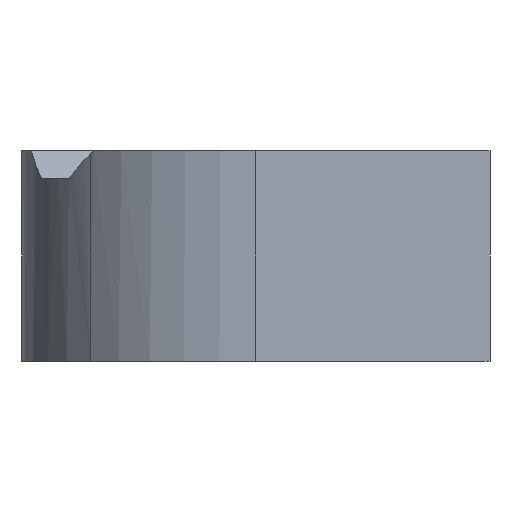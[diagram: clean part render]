
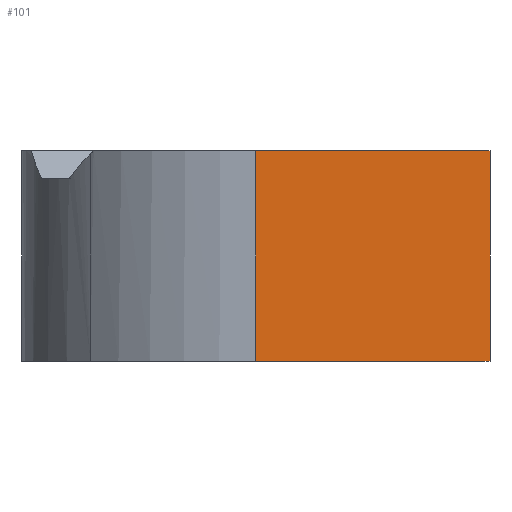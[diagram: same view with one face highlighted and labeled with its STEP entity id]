
A CAD part, left-side view. The second image highlights one B-rep face of the part: STEP entity #101.
In plain terms, the highlighted planar face has unit normal (-1, 0, 0).
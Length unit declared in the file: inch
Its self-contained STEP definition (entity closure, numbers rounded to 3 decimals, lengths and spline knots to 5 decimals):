
#101=ADVANCED_FACE('',(#197),#198,.T.);
#197=FACE_OUTER_BOUND('',#508,.T.);
#198=PLANE('',#509);
#508=EDGE_LOOP('',(#716,#717,#718,#719));
#509=AXIS2_PLACEMENT_3D('',#720,#721,#722);
#716=ORIENTED_EDGE('',*,*,#779,.F.);
#717=ORIENTED_EDGE('',*,*,#791,.T.);
#718=ORIENTED_EDGE('',*,*,#801,.F.);
#719=ORIENTED_EDGE('',*,*,#816,.F.);
#720=CARTESIAN_POINT('',(0.0,0.7874,0.35433));
#721=DIRECTION('',(-1.0,0.0,0.0));
#722=DIRECTION('',(0.0,0.0,-1.0));
#779=EDGE_CURVE('',#905,#907,#908,.T.);
#791=EDGE_CURVE('',#905,#925,#927,.T.);
#801=EDGE_CURVE('',#938,#925,#940,.T.);
#816=EDGE_CURVE('',#907,#938,#955,.T.);
#905=VERTEX_POINT('',#1150);
#907=VERTEX_POINT('',#1152);
#908=LINE('',#1153,#1154);
#925=VERTEX_POINT('',#1183);
#927=LINE('',#1186,#1187);
#938=VERTEX_POINT('',#1202);
#940=LINE('',#1205,#1206);
#955=LINE('',#1226,#1227);
#1150=CARTESIAN_POINT('',(0.0,0.3937,0.));
#1152=CARTESIAN_POINT('',(0.0,0.3937,0.35433));
#1153=CARTESIAN_POINT('',(0.0,0.3937,0.35433));
#1154=VECTOR('',#1297,0.3937);
#1183=CARTESIAN_POINT('',(0.0,0.,0.));
#1186=CARTESIAN_POINT('',(0.0,0.7874,0.));
#1187=VECTOR('',#1308,0.3937);
#1202=CARTESIAN_POINT('',(0.0,0.,0.35433));
#1205=CARTESIAN_POINT('',(0.0,0.,0.35433));
#1206=VECTOR('',#1320,0.3937);
#1226=CARTESIAN_POINT('',(0.0,0.7874,0.35433));
#1227=VECTOR('',#1332,0.3937);
#1297=DIRECTION('',(0.0,0.0,1.0));
#1308=DIRECTION('',(0.0,-1.0,0.0));
#1320=DIRECTION('',(0.0,0.0,-1.0));
#1332=DIRECTION('',(0.0,-1.0,0.0));
